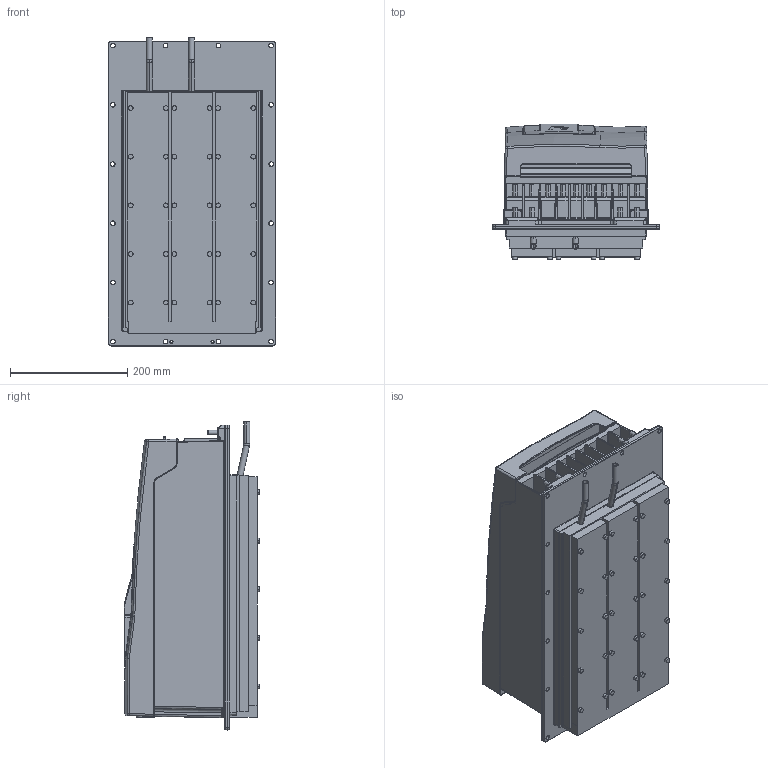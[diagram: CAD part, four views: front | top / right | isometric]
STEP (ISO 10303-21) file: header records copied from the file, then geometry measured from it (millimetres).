
FILE_DESCRIPTION (( 'STEP AP214' ), '1' );
FILE_NAME ('F6-6TW6-A011.STEP', '2022-02-16T09:41:35', ( '' ), ( '' ), 'SwSTEP 2.0', 'SolidWorks 2019', '' );
FILE_SCHEMA (( 'AUTOMOTIVE_DESIGN' ));
Length unit declared in the file: millimetre
Products named in the file (11): Kundenmodell^10027052_000; 10027052_000_Geh„usebaugruppe F6-6 (Kundenmodell); 10070738_000_Leistungsteil F6-6  TW1 (Kundenmodell); F6-6TW6-A011; Kundenmodell^10061793_000; Kundenmodell^10059764_000; Kundenmodell^10035736_000; 10059764_000_Blindabdeckung (Kundenmodell); Kundenmodell^10070738_000; 10061793_000_Deckelbaugruppe F6-6 (Kundenmodell); 10035736_000_Kundenmodell
Assembly tree (10 placements, depth 4):
  F6-6TW6-A011
    10070738_000_Leistungsteil F6-6  TW1 (Kundenmodell)
      Kundenmodell^10070738_000
    10027052_000_Geh„usebaugruppe F6-6 (Kundenmodell)
      10061793_000_Deckelbaugruppe F6-6 (Kundenmodell)
        Kundenmodell^10061793_000
      Kundenmodell^10027052_000
    10035736_000_Kundenmodell
      10059764_000_Blindabdeckung (Kundenmodell)
        Kundenmodell^10059764_000
      Kundenmodell^10035736_000
Bounding box: 285 x 231.4 x 525.5 mm (x, y, z)
Volume: 22383675 mm3; surface area: 1312085.6 mm2
Topology: 12 solids, 20 shells, 3228 faces, 7994 edges, 4759 vertices
Faces by surface type: cylinder 1150, plane 1051, bspline 628, torus 204, sphere 111, cone 84
Entity records: 108327 total; most frequent: CARTESIAN_POINT 36678, ORIENTED_EDGE 15672, DIRECTION 13956, EDGE_CURVE 7836, AXIS2_PLACEMENT_3D 5094, VERTEX_POINT 4757, LINE 3768, VECTOR 3768
